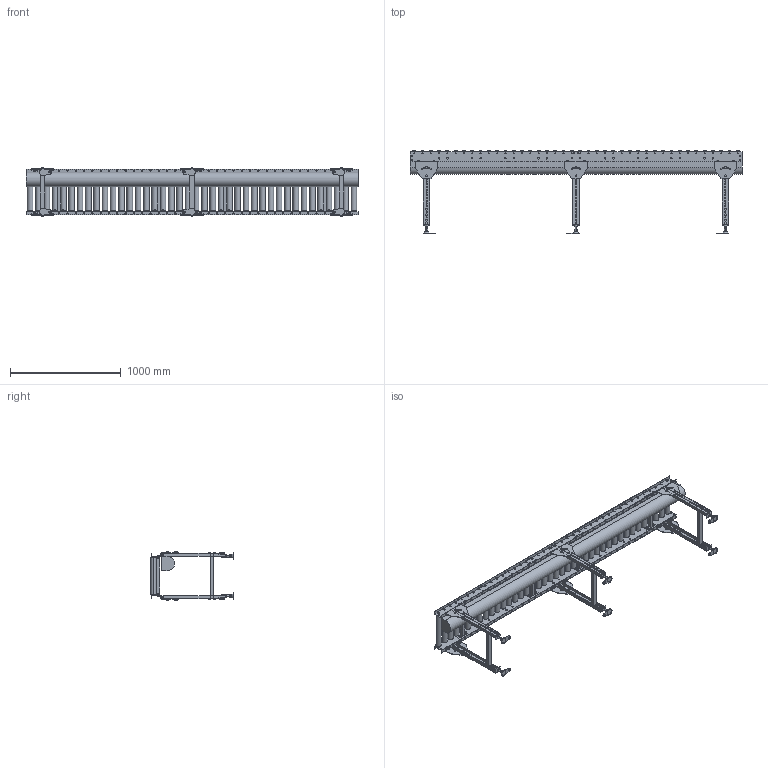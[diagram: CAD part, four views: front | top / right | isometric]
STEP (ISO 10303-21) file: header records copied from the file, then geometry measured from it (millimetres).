
FILE_DESCRIPTION (( 'STEP AP214' ), '1' );
FILE_NAME ('MCD50-ストレート-75P-355.STEP', '2022-08-01T02:08:37', ( '' ), ( '' ), 'SwSTEP 2.0', 'SolidWorks 2017', '' );
FILE_SCHEMA (( 'AUTOMOTIVE_DESIGN' ));
Length unit declared in the file: millimetre
Products named in the file (1): MCD50-ストレート-75P-355
Bounding box: 3000 x 750 x 439.4 mm (x, y, z)
Volume: 76439173.2 mm3; surface area: 7024669.2 mm2
Topology: 28 solids, 74 shells, 4058 faces, 11056 edges, 7024 vertices
Faces by surface type: plane 2573, cylinder 1473, cone 12
Entity records: 175013 total; most frequent: DIRECTION 23112, CARTESIAN_POINT 22535, ORIENTED_EDGE 22112, EDGE_CURVE 11056, AXIS2_PLACEMENT_3D 8009, VECTOR 7094, LINE 7094, VERTEX_POINT 7024
